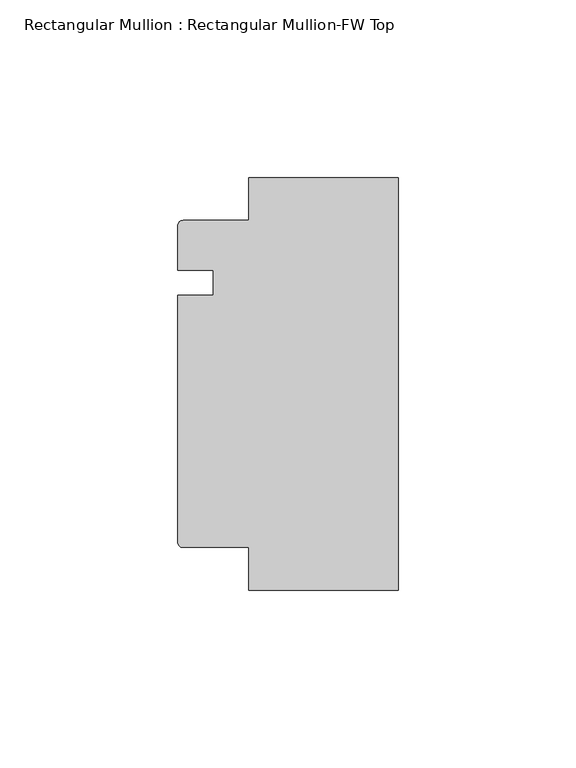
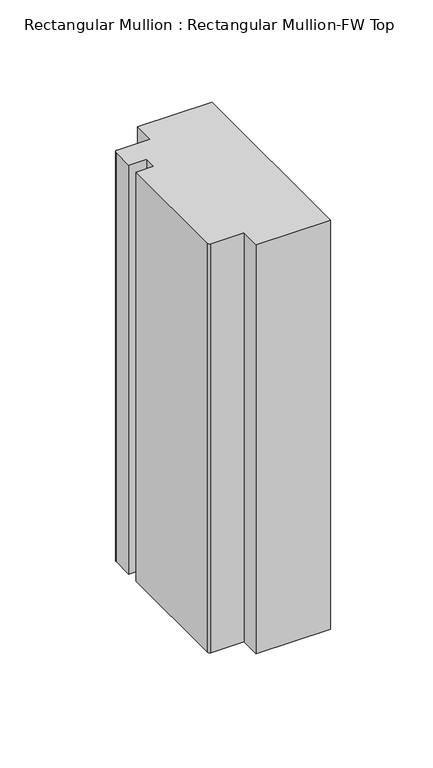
"""IFC4 building model written with IfcOpenShell, lengths in millimetres: member geometry, Rectangular Mullion : Rectangular Mullion-FW Top."""

from ifc_helpers import new_model, si_unit, point, frame, frame_2d, origin, place, context, project, spatial, polyline, circle_curve, trimmed, segment, composite_curve, outline, extrude, source, transform, mapped, element, save


def rectangular_mullion_rectangular_mullion_fw_top_fcf5f003(model_context):
    return source(origin(), model_context, "Body", "SweptSolid", [
        extrude(outline(composite_curve([segment(trimmed(circle_curve(frame_2d((-60.5201031, -90.5201031)), 1.4798969), [point((-60.5201031, -92.0))], [point((-62.0, -90.5201031))], False, "CARTESIAN"), True, "CONTINUOUS"), segment(polyline([(-62.0, -90.5201031), (-62.0, -21.0), (-52.0, -21.0), (-52.0, -14.0), (-62.0, -14.0), (-62.0, -1.4798969)]), True, "CONTINUOUS"), segment(trimmed(circle_curve(frame_2d((-60.5201031, -1.4798969)), 1.4798969), [point((-62.0, -1.4798969))], [point((-60.5201031, 0.0))], False, "CARTESIAN"), True, "CONTINUOUS"), segment(polyline([(-60.5201031, 0.0), (-42.0, 0.0), (-42.0, 12.0), (0.0, 12.0), (0.0, -104.0), (-42.0, -104.0), (-42.0, -92.0), (-60.5201031, -92.0)]), True, "CONTINUOUS")], self_intersect=False)), frame((0.0, 0.0, -244.0), z_axis=(0.0, 0.0, 1.0), x_axis=(1.0, 0.0, 0.0)), (0.0, 0.0, 1.0), 244.0),
    ])


if __name__ == "__main__":
    model = new_model("IFC4")
    model_context = context("Model", 3, world=origin())
    ifc_project = project(units=[si_unit("LENGTHUNIT", "METRE", prefix="MILLI")], contexts=[model_context])
    site = spatial("IfcSite", under=ifc_project)
    building = spatial("IfcBuilding", under=site)
    placement = place(None, origin())
    rectangular_mullion_rectangular_mullion_fw_top_shape = rectangular_mullion_rectangular_mullion_fw_top_fcf5f003(model_context)
    element("IfcMember", 1, ObjectType="Rectangular Mullion : Rectangular Mullion-FW Top", at=placement, inside=building, context=model_context, shape_type="MappedRepresentation", body=[
        mapped(rectangular_mullion_rectangular_mullion_fw_top_shape, transform((0.0, 0.0, 0.0), x_axis=(1.0, 0.0, 0.0), y_axis=(0.0, 1.0, 0.0), z_axis=(0.0, 0.0, 1.0))),
    ])
    save(model, "model.ifc")
